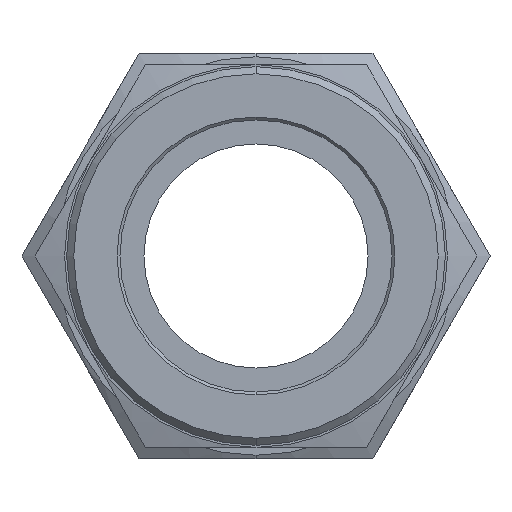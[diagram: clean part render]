
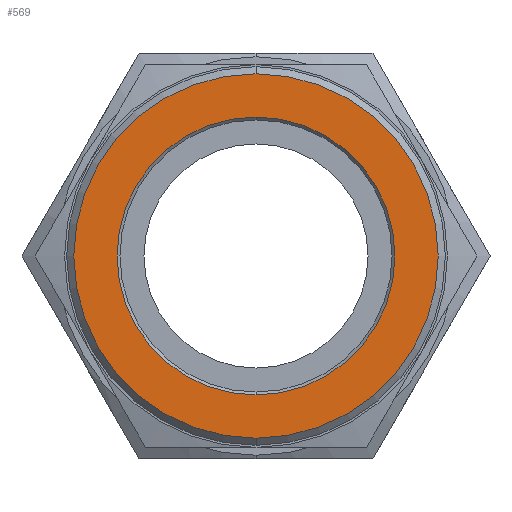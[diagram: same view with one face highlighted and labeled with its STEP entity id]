
A CAD part, left-side view. The second image highlights one B-rep face of the part: STEP entity #569.
In plain terms, the highlighted planar face has unit normal (-1, 0, 0).
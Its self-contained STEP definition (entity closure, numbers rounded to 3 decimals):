
#270 = VERTEX_POINT ( 'NONE', #1365 ) ;
#272 = EDGE_CURVE ( 'NONE', #273, #270, #1364, .T. ) ;
#273 = VERTEX_POINT ( 'NONE', #1359 ) ;
#279 = EDGE_CURVE ( 'NONE', #324, #325, #1424, .T. ) ;
#324 = VERTEX_POINT ( 'NONE', #701 ) ;
#325 = VERTEX_POINT ( 'NONE', #888 ) ;
#423 = ORIENTED_EDGE ( 'NONE', *, *, #568, .T. ) ;
#424 = ORIENTED_EDGE ( 'NONE', *, *, #425, .T. ) ;
#425 = EDGE_CURVE ( 'NONE', #325, #324, #692, .T. ) ;
#426 = ORIENTED_EDGE ( 'NONE', *, *, #279, .T. ) ;
#568 = EDGE_CURVE ( 'NONE', #270, #273, #1101, .T. ) ;
#569 = ADVANCED_FACE ( 'NONE', ( #1096, #1095 ), #1094, .T. ) ;
#570 = EDGE_LOOP ( 'NONE', ( #571, #423 ) ) ;
#571 = ORIENTED_EDGE ( 'NONE', *, *, #272, .T. ) ;
#572 = EDGE_LOOP ( 'NONE', ( #424, #426 ) ) ;
#685 = DIRECTION ( 'NONE',  ( 0., 0., 1. ) ) ;
#686 = DIRECTION ( 'NONE',  ( -1., 0., 0. ) ) ;
#687 = CARTESIAN_POINT ( 'NONE',  ( -11.9, 0., 0. ) ) ;
#688 = AXIS2_PLACEMENT_3D ( 'NONE', #687, #686, #685 ) ;
#692 = CIRCLE ( 'NONE', #688, 12.85 ) ;
#701 = CARTESIAN_POINT ( 'NONE',  ( -11.9, 0., 12.85 ) ) ;
#888 = CARTESIAN_POINT ( 'NONE',  ( -11.9, 0., -12.85 ) ) ;
#1089 = DIRECTION ( 'NONE',  ( 0., 0., 1. ) ) ;
#1090 = DIRECTION ( 'NONE',  ( -1., 0., 0. ) ) ;
#1091 = AXIS2_PLACEMENT_3D ( 'NONE', #1093, #1090, #1089 ) ;
#1093 = CARTESIAN_POINT ( 'NONE',  ( -11.9, 0., 0. ) ) ;
#1094 = PLANE ( 'NONE',  #1091 ) ;
#1095 = FACE_OUTER_BOUND ( 'NONE', #572, .T. ) ;
#1096 = FACE_BOUND ( 'NONE', #570, .T. ) ;
#1097 = DIRECTION ( 'NONE',  ( 0., 0., 1. ) ) ;
#1098 = DIRECTION ( 'NONE',  ( 1., 0., 0. ) ) ;
#1099 = CARTESIAN_POINT ( 'NONE',  ( -11.9, 0., 0. ) ) ;
#1100 = AXIS2_PLACEMENT_3D ( 'NONE', #1099, #1098, #1097 ) ;
#1101 = CIRCLE ( 'NONE', #1100, 9.795 ) ;
#1316 = DIRECTION ( 'NONE',  ( 0., 0., 1. ) ) ;
#1317 = DIRECTION ( 'NONE',  ( -1., 0., 0. ) ) ;
#1359 = CARTESIAN_POINT ( 'NONE',  ( -11.9, 0., 9.795 ) ) ;
#1360 = DIRECTION ( 'NONE',  ( 0., 0., 1. ) ) ;
#1361 = DIRECTION ( 'NONE',  ( 1., 0., 0. ) ) ;
#1362 = CARTESIAN_POINT ( 'NONE',  ( -11.9, 0., 0. ) ) ;
#1363 = AXIS2_PLACEMENT_3D ( 'NONE', #1362, #1361, #1360 ) ;
#1364 = CIRCLE ( 'NONE', #1363, 9.795 ) ;
#1365 = CARTESIAN_POINT ( 'NONE',  ( -11.9, 0., -9.795 ) ) ;
#1417 = CARTESIAN_POINT ( 'NONE',  ( -11.9, 0., 0. ) ) ;
#1418 = AXIS2_PLACEMENT_3D ( 'NONE', #1417, #1317, #1316 ) ;
#1424 = CIRCLE ( 'NONE', #1418, 12.85 ) ;
